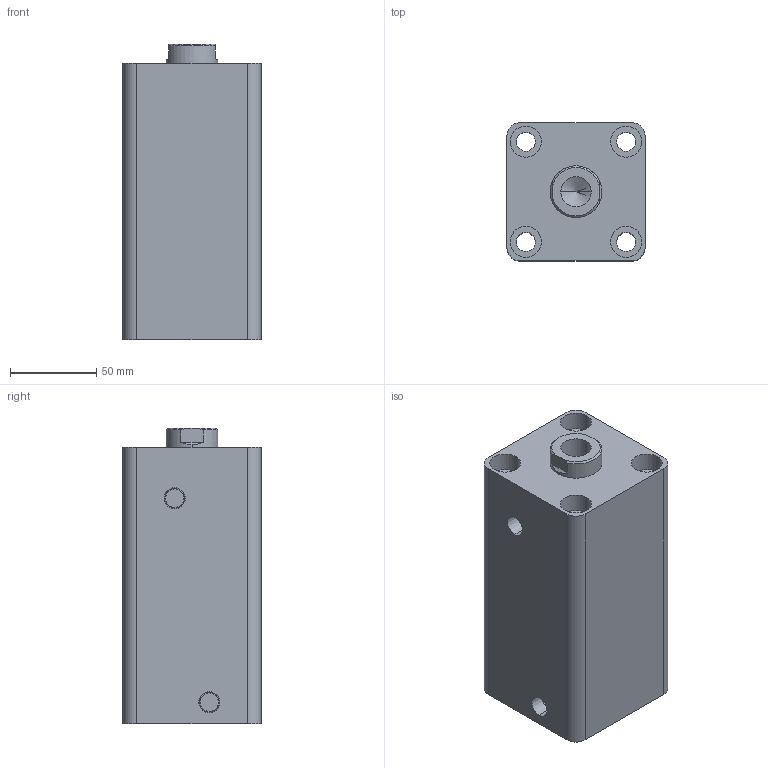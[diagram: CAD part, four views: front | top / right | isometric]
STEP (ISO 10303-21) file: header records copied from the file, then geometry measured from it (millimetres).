
FILE_DESCRIPTION (( 'STEP AP203' ), '1' );
FILE_NAME ('HTB-SD50-100N.STEP', '2019-10-07T07:23:26', ( '微软用户' ), ( '微软中国' ), 'SwSTEP 2.0', 'SolidWorks 2012', '' );
FILE_SCHEMA (( 'CONFIG_CONTROL_DESIGN' ));
Length unit declared in the file: millimetre
Products named in the file (3): HTB-SD50-100N; HTB-SD50-100N活塞杆; HTB-SD50-100掛极
Assembly tree (2 placements, depth 2):
  HTB-SD50-100N
    HTB-SD50-100掛极
    HTB-SD50-100N活塞杆
Bounding box: 80 x 80 x 171 mm (x, y, z)
Volume: 813373.9 mm3; surface area: 131559.3 mm2
Topology: 2 solids, 2 shells, 83 faces, 184 edges, 119 vertices
Faces by surface type: cylinder 42, plane 27, cone 8, torus 6
Entity records: 2655 total; most frequent: DIRECTION 456, CARTESIAN_POINT 417, ORIENTED_EDGE 364, AXIS2_PLACEMENT_3D 194, EDGE_CURVE 182, VERTEX_POINT 119, EDGE_LOOP 107, CIRCLE 106
